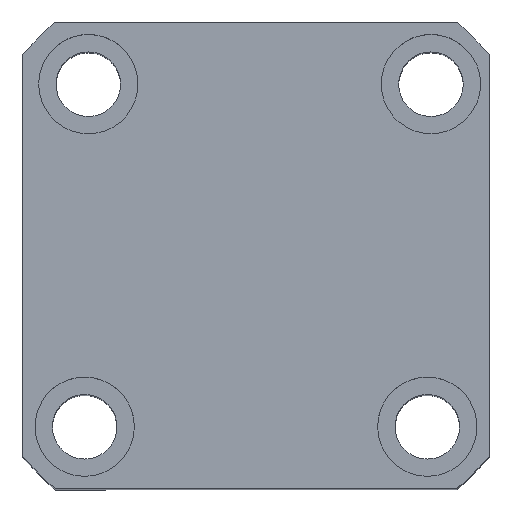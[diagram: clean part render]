
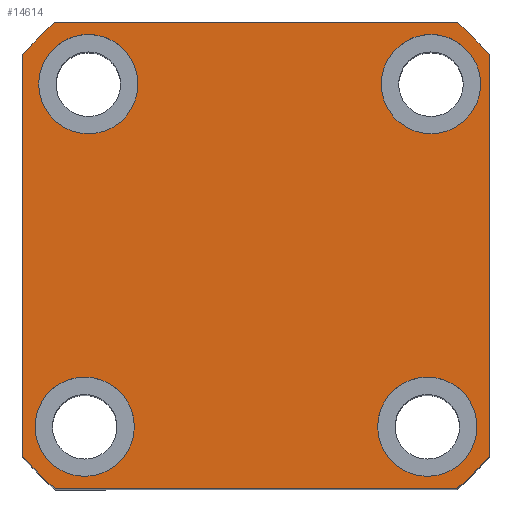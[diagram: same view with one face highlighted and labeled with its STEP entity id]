
A CAD part, top view. The second image highlights one B-rep face of the part: STEP entity #14614.
In plain terms, the highlighted planar face has unit normal (0, 0, 1) as drawn and (0, 0, -1) by its records, which use the part's own axes.
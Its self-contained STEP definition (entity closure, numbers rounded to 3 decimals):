
#64 = ORIENTED_EDGE ( 'NONE', *, *, #4399, .F. ) ;
#299 = DIRECTION ( 'NONE',  ( 1., 0., 0. ) ) ;
#337 = FACE_BOUND ( 'NONE', #4019, .T. ) ;
#380 = ORIENTED_EDGE ( 'NONE', *, *, #16721, .F. ) ;
#394 = EDGE_CURVE ( 'NONE', #9634, #3355, #10590, .T. ) ;
#556 = CARTESIAN_POINT ( 'NONE',  ( -47., 47., 0. ) ) ;
#558 = DIRECTION ( 'NONE',  ( -1., 0., 0. ) ) ;
#677 = VERTEX_POINT ( 'NONE', #9629 ) ;
#946 = DIRECTION ( 'NONE',  ( -1., 0., 0. ) ) ;
#973 = DIRECTION ( 'NONE',  ( 0., 0., -1. ) ) ;
#1057 = AXIS2_PLACEMENT_3D ( 'NONE', #17431, #9165, #946 ) ;
#1249 = EDGE_LOOP ( 'NONE', ( #15354, #15338 ) ) ;
#1586 = DIRECTION ( 'NONE',  ( 0., 0., 1. ) ) ;
#1642 = EDGE_CURVE ( 'NONE', #9063, #7410, #12320, .T. ) ;
#1674 = CARTESIAN_POINT ( 'NONE',  ( -47., -47., 0. ) ) ;
#1849 = EDGE_CURVE ( 'NONE', #7410, #9063, #8167, .T. ) ;
#1938 = DIRECTION ( 'NONE',  ( 0., 0., 1. ) ) ;
#2051 = CIRCLE ( 'NONE', #17127, 10. ) ;
#2183 = VERTEX_POINT ( 'NONE', #12410 ) ;
#2220 = ORIENTED_EDGE ( 'NONE', *, *, #14800, .F. ) ;
#2281 = CARTESIAN_POINT ( 'NONE',  ( 24.5, 34.5, 0. ) ) ;
#2297 = CARTESIAN_POINT ( 'NONE',  ( 35.23, -34.5, 0. ) ) ;
#2675 = VECTOR ( 'NONE', #12268, 1000. ) ;
#2722 = VERTEX_POINT ( 'NONE', #3879 ) ;
#2866 = CIRCLE ( 'NONE', #15268, 10. ) ;
#2896 = EDGE_CURVE ( 'NONE', #3494, #9303, #14009, .T. ) ;
#3082 = VECTOR ( 'NONE', #13975, 1000. ) ;
#3171 = EDGE_LOOP ( 'NONE', ( #3466, #14414, #5745, #17573, #11380, #16220, #380, #2220 ) ) ;
#3194 = CARTESIAN_POINT ( 'NONE',  ( 47., -40.435, 0. ) ) ;
#3320 = DIRECTION ( 'NONE',  ( 0., 0., -1. ) ) ;
#3321 = CIRCLE ( 'NONE', #7862, 10. ) ;
#3355 = VERTEX_POINT ( 'NONE', #3194 ) ;
#3404 = VERTEX_POINT ( 'NONE', #16054 ) ;
#3466 = ORIENTED_EDGE ( 'NONE', *, *, #12180, .F. ) ;
#3493 = CARTESIAN_POINT ( 'NONE',  ( 44.5, 34.5, 0. ) ) ;
#3494 = VERTEX_POINT ( 'NONE', #10635 ) ;
#3586 = CARTESIAN_POINT ( 'NONE',  ( -47., -40.435, 0. ) ) ;
#3674 = DIRECTION ( 'NONE',  ( -1., 0., 0. ) ) ;
#3836 = EDGE_CURVE ( 'NONE', #15212, #13295, #3321, .T. ) ;
#3879 = CARTESIAN_POINT ( 'NONE',  ( 45.23, -34.5, 0. ) ) ;
#3915 = CARTESIAN_POINT ( 'NONE',  ( -47., 47., 0. ) ) ;
#4019 = EDGE_LOOP ( 'NONE', ( #12561, #8010 ) ) ;
#4055 = CARTESIAN_POINT ( 'NONE',  ( 35.23, -34.5, 0. ) ) ;
#4147 = EDGE_CURVE ( 'NONE', #13295, #15212, #2866, .T. ) ;
#4324 = DIRECTION ( 'NONE',  ( 0., 0., -1. ) ) ;
#4399 = EDGE_CURVE ( 'NONE', #10433, #2722, #2051, .T. ) ;
#4450 = DIRECTION ( 'NONE',  ( -1., 0., 0. ) ) ;
#4510 = DIRECTION ( 'NONE',  ( 0., 0., -1. ) ) ;
#4574 = CARTESIAN_POINT ( 'NONE',  ( 34.5, 34.5, 0. ) ) ;
#4838 = CIRCLE ( 'NONE', #17376, 10. ) ;
#4973 = EDGE_CURVE ( 'NONE', #3355, #5104, #10445, .T. ) ;
#5104 = VERTEX_POINT ( 'NONE', #5798 ) ;
#5115 = ORIENTED_EDGE ( 'NONE', *, *, #2896, .F. ) ;
#5444 = DIRECTION ( 'NONE',  ( -1., 0., 0. ) ) ;
#5498 = CIRCLE ( 'NONE', #11878, 62. ) ;
#5690 = CARTESIAN_POINT ( 'NONE',  ( 47., 47., 0. ) ) ;
#5745 = ORIENTED_EDGE ( 'NONE', *, *, #394, .F. ) ;
#5775 = CARTESIAN_POINT ( 'NONE',  ( 25.23, -34.5, 0. ) ) ;
#5798 = CARTESIAN_POINT ( 'NONE',  ( 47., 40.435, 0. ) ) ;
#6153 = CARTESIAN_POINT ( 'NONE',  ( 0., 0., 0. ) ) ;
#6343 = AXIS2_PLACEMENT_3D ( 'NONE', #9193, #973, #10597 ) ;
#6619 = CARTESIAN_POINT ( 'NONE',  ( 0., 0., 0. ) ) ;
#7125 = EDGE_CURVE ( 'NONE', #9303, #3494, #9964, .T. ) ;
#7410 = VERTEX_POINT ( 'NONE', #2281 ) ;
#7425 = CARTESIAN_POINT ( 'NONE',  ( 0., 0., 0. ) ) ;
#7449 = DIRECTION ( 'NONE',  ( 0., 0., 1. ) ) ;
#7473 = DIRECTION ( 'NONE',  ( 1., 0., 0. ) ) ;
#7529 = DIRECTION ( 'NONE',  ( 1., 0., 0. ) ) ;
#7687 = EDGE_LOOP ( 'NONE', ( #64, #12164 ) ) ;
#7862 = AXIS2_PLACEMENT_3D ( 'NONE', #12619, #4324, #8663 ) ;
#8001 = DIRECTION ( 'NONE',  ( 1., 0., 0. ) ) ;
#8010 = ORIENTED_EDGE ( 'NONE', *, *, #3836, .F. ) ;
#8091 = VERTEX_POINT ( 'NONE', #10283 ) ;
#8167 = CIRCLE ( 'NONE', #6343, 10. ) ;
#8295 = LINE ( 'NONE', #556, #15219 ) ;
#8331 = AXIS2_PLACEMENT_3D ( 'NONE', #17037, #8775, #558 ) ;
#8663 = DIRECTION ( 'NONE',  ( -1., 0., 0. ) ) ;
#8775 = DIRECTION ( 'NONE',  ( 0., 0., -1. ) ) ;
#8834 = EDGE_LOOP ( 'NONE', ( #5115, #9318 ) ) ;
#9063 = VERTEX_POINT ( 'NONE', #3493 ) ;
#9165 = DIRECTION ( 'NONE',  ( 0., 0., -1. ) ) ;
#9193 = CARTESIAN_POINT ( 'NONE',  ( 34.5, 34.5, 0. ) ) ;
#9285 = AXIS2_PLACEMENT_3D ( 'NONE', #6153, #15816, #7529 ) ;
#9303 = VERTEX_POINT ( 'NONE', #13567 ) ;
#9318 = ORIENTED_EDGE ( 'NONE', *, *, #7125, .F. ) ;
#9386 = AXIS2_PLACEMENT_3D ( 'NONE', #6619, #16266, #8001 ) ;
#9629 = CARTESIAN_POINT ( 'NONE',  ( 40.435, 47., 0. ) ) ;
#9634 = VERTEX_POINT ( 'NONE', #10963 ) ;
#9781 = AXIS2_PLACEMENT_3D ( 'NONE', #7425, #7449, #7473 ) ;
#9796 = CARTESIAN_POINT ( 'NONE',  ( -44.5, 34.5, 0. ) ) ;
#9818 = CARTESIAN_POINT ( 'NONE',  ( 0., 0., 0. ) ) ;
#9964 = CIRCLE ( 'NONE', #8331, 10. ) ;
#10006 = LINE ( 'NONE', #3915, #2675 ) ;
#10179 = CARTESIAN_POINT ( 'NONE',  ( 0., 0., 0. ) ) ;
#10283 = CARTESIAN_POINT ( 'NONE',  ( -40.435, 47., 0. ) ) ;
#10433 = VERTEX_POINT ( 'NONE', #5775 ) ;
#10445 = LINE ( 'NONE', #5690, #3082 ) ;
#10517 = VERTEX_POINT ( 'NONE', #3586 ) ;
#10590 = CIRCLE ( 'NONE', #9781, 62. ) ;
#10597 = DIRECTION ( 'NONE',  ( -1., 0., 0. ) ) ;
#10635 = CARTESIAN_POINT ( 'NONE',  ( -43.77, -34.5, 0. ) ) ;
#10890 = FACE_OUTER_BOUND ( 'NONE', #3171, .T. ) ;
#10963 = CARTESIAN_POINT ( 'NONE',  ( 40.435, -47., 0. ) ) ;
#11236 = DIRECTION ( 'NONE',  ( 1., 0., 0. ) ) ;
#11333 = FACE_BOUND ( 'NONE', #1249, .T. ) ;
#11380 = ORIENTED_EDGE ( 'NONE', *, *, #11569, .F. ) ;
#11569 = EDGE_CURVE ( 'NONE', #10517, #3404, #5498, .T. ) ;
#11578 = DIRECTION ( 'NONE',  ( 1., 0., 0. ) ) ;
#11589 = EDGE_CURVE ( 'NONE', #2183, #10517, #8295, .T. ) ;
#11602 = CARTESIAN_POINT ( 'NONE',  ( -34.5, 34.5, 0. ) ) ;
#11878 = AXIS2_PLACEMENT_3D ( 'NONE', #10179, #1938, #11578 ) ;
#11967 = DIRECTION ( 'NONE',  ( 0., 0., -1. ) ) ;
#12164 = ORIENTED_EDGE ( 'NONE', *, *, #15721, .F. ) ;
#12180 = EDGE_CURVE ( 'NONE', #5104, #677, #16288, .T. ) ;
#12268 = DIRECTION ( 'NONE',  ( -1., 0., 0. ) ) ;
#12320 = CIRCLE ( 'NONE', #17759, 10. ) ;
#12410 = CARTESIAN_POINT ( 'NONE',  ( -47., 40.435, 0. ) ) ;
#12561 = ORIENTED_EDGE ( 'NONE', *, *, #4147, .F. ) ;
#12619 = CARTESIAN_POINT ( 'NONE',  ( -34.5, 34.5, 0. ) ) ;
#12986 = DIRECTION ( 'NONE',  ( -1., 0., 0. ) ) ;
#13295 = VERTEX_POINT ( 'NONE', #9796 ) ;
#13502 = LINE ( 'NONE', #1674, #16268 ) ;
#13567 = CARTESIAN_POINT ( 'NONE',  ( -23.77, -34.5, 0. ) ) ;
#13727 = DIRECTION ( 'NONE',  ( 0., 0., -1. ) ) ;
#13975 = DIRECTION ( 'NONE',  ( 0., 1., 0. ) ) ;
#14009 = CIRCLE ( 'NONE', #1057, 10. ) ;
#14122 = EDGE_CURVE ( 'NONE', #3404, #9634, #13502, .T. ) ;
#14414 = ORIENTED_EDGE ( 'NONE', *, *, #4973, .F. ) ;
#14579 = FACE_BOUND ( 'NONE', #7687, .T. ) ;
#14614 = ADVANCED_FACE ( 'NONE', ( #14995, #14579, #11333, #337, #10890 ), #14847, .F. ) ;
#14800 = EDGE_CURVE ( 'NONE', #677, #8091, #10006, .T. ) ;
#14847 = PLANE ( 'NONE',  #9386 ) ;
#14995 = FACE_BOUND ( 'NONE', #8834, .T. ) ;
#15212 = VERTEX_POINT ( 'NONE', #15414 ) ;
#15219 = VECTOR ( 'NONE', #17034, 1000. ) ;
#15247 = CIRCLE ( 'NONE', #9285, 62. ) ;
#15268 = AXIS2_PLACEMENT_3D ( 'NONE', #11602, #3320, #12986 ) ;
#15338 = ORIENTED_EDGE ( 'NONE', *, *, #1642, .F. ) ;
#15354 = ORIENTED_EDGE ( 'NONE', *, *, #1849, .F. ) ;
#15414 = CARTESIAN_POINT ( 'NONE',  ( -24.5, 34.5, 0. ) ) ;
#15721 = EDGE_CURVE ( 'NONE', #2722, #10433, #4838, .T. ) ;
#15816 = DIRECTION ( 'NONE',  ( 0., 0., 1. ) ) ;
#16054 = CARTESIAN_POINT ( 'NONE',  ( -40.435, -47., 0. ) ) ;
#16220 = ORIENTED_EDGE ( 'NONE', *, *, #11589, .F. ) ;
#16266 = DIRECTION ( 'NONE',  ( 0., 0., 1. ) ) ;
#16268 = VECTOR ( 'NONE', #299, 1000. ) ;
#16288 = CIRCLE ( 'NONE', #17392, 62. ) ;
#16721 = EDGE_CURVE ( 'NONE', #8091, #2183, #15247, .T. ) ;
#17034 = DIRECTION ( 'NONE',  ( 0., -1., 0. ) ) ;
#17037 = CARTESIAN_POINT ( 'NONE',  ( -33.77, -34.5, 0. ) ) ;
#17127 = AXIS2_PLACEMENT_3D ( 'NONE', #2297, #11967, #3674 ) ;
#17376 = AXIS2_PLACEMENT_3D ( 'NONE', #4055, #13727, #5444 ) ;
#17392 = AXIS2_PLACEMENT_3D ( 'NONE', #9818, #1586, #11236 ) ;
#17431 = CARTESIAN_POINT ( 'NONE',  ( -33.77, -34.5, 0. ) ) ;
#17573 = ORIENTED_EDGE ( 'NONE', *, *, #14122, .F. ) ;
#17759 = AXIS2_PLACEMENT_3D ( 'NONE', #4574, #4510, #4450 ) ;
